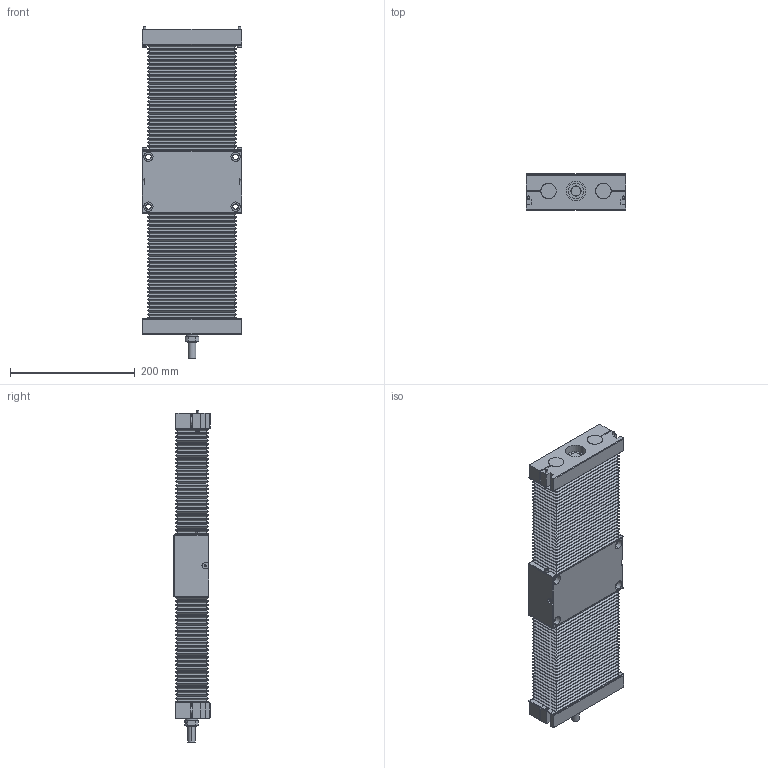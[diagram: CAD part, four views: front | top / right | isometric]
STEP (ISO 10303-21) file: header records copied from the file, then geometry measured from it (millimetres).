
FILE_DESCRIPTION (( 'STEP AP214' ), '1' );
FILE_NAME ('TKC2510B-200H0C-Ä£×é.step', '2025-10-11T05:40:55', ( '' ), ( '' ), 'SwSTEP 2.0', 'SolidWorks 2024', '' );
FILE_SCHEMA (( 'AUTOMOTIVE_DESIGN' ));
Length unit declared in the file: millimetre
Products named in the file (5): TKC25-200-03; TKC25-200-01; TKC25-02; TKC2510B-200H0C-模组; hexagon socket head cap screws gb_GB_FASTENER_SCREWS_HSHCS M4X30-N
Assembly tree (8 placements, depth 2):
  TKC2510B-200H0C-模组
    TKC25-02
    TKC25-200-01
    TKC25-200-03  x2
    hexagon socket head cap screws gb_GB_FASTENER_SCREWS_HSHCS M4X30-N  x4
Bounding box: 160 x 58 x 533 mm (x, y, z)
Volume: 2921918 mm3; surface area: 707330.8 mm2
Topology: 18 solids, 18 shells, 1527 faces, 3427 edges, 1982 vertices
Faces by surface type: plane 1052, cylinder 368, cone 60, torus 36, bspline 11
Entity records: 58517 total; most frequent: CARTESIAN_POINT 33785, ORIENTED_EDGE 4954, DIRECTION 4919, EDGE_CURVE 2477, LINE 1665, VECTOR 1665, AXIS2_PLACEMENT_3D 1627, VERTEX_POINT 1499
